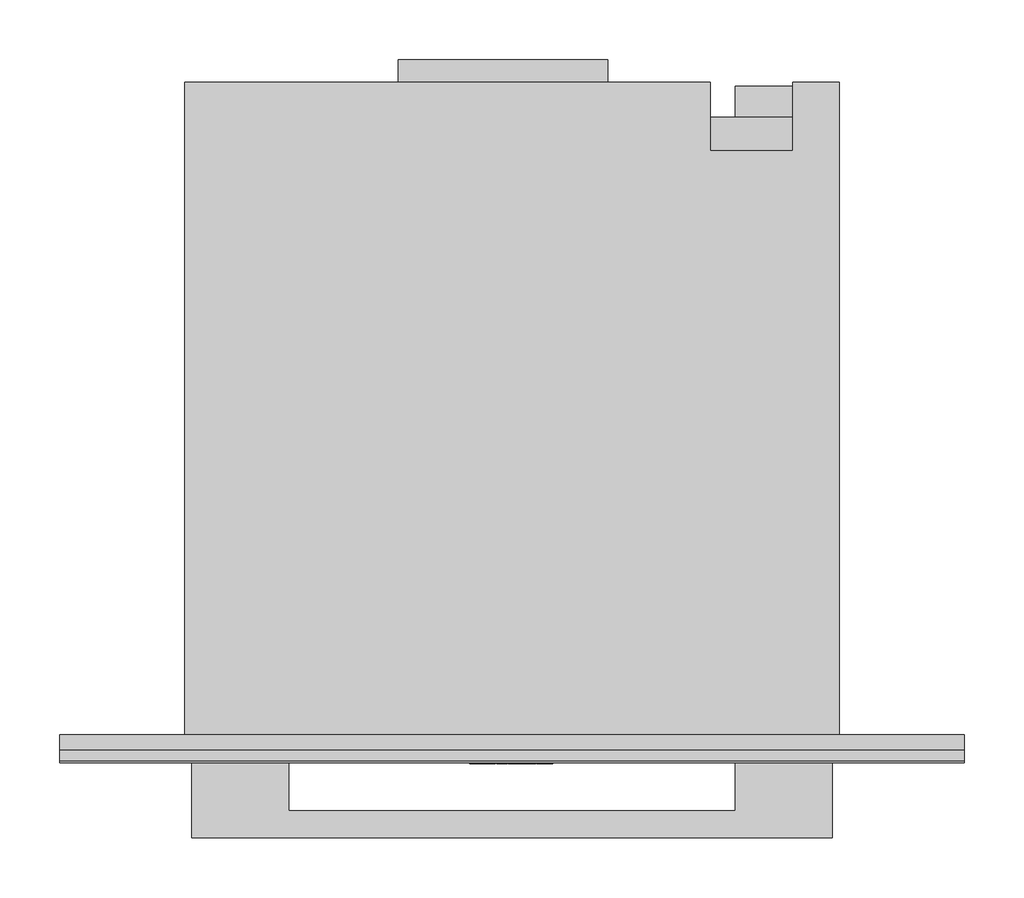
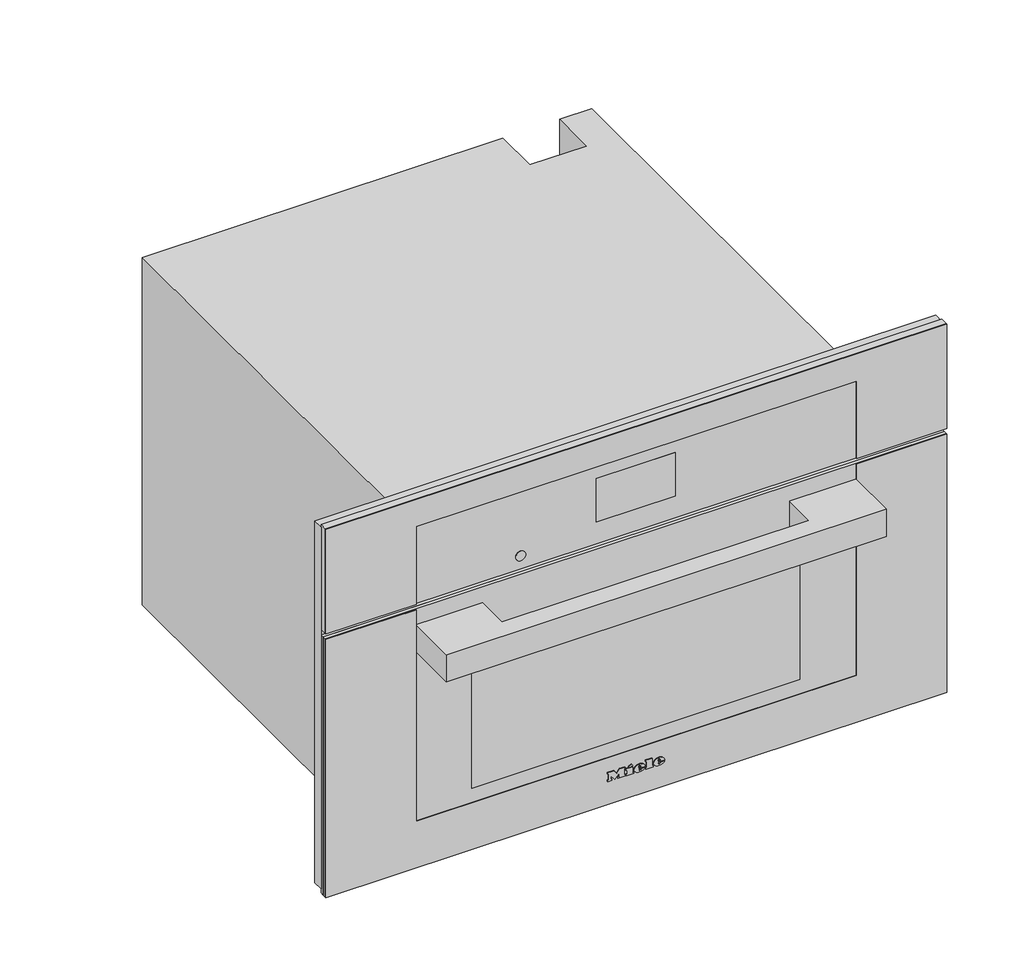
# Not in any storey: 1 proxy.
"""IFC4 building model written with IfcOpenShell, lengths in millimetres."""

import ifcopenshell
import ifcopenshell.guid

model = None  # the IFC model being written
_history = None  # IfcOwnerHistory: only IFC2X3 demands one
_inside = {}  # id of a spatial element -> (the spatial element, [elements in it])
_under = {}  # id of a project, library or spatial element -> (it, [spatial elements below it])
_declared = {}  # id of a project -> (the project, [libraries it declares])
_typed = {}  # id of a type object -> (the type object, [elements of that type])
_made_of = {}  # id of a material, layer set ... -> (it, [elements and type objects made of it])


def new_model(schema):
    """Start an empty IFC model of exactly this schema.

    Asked for "IFC4X3", IfcOpenShell would pick the latest addendum, in which some entities
    have other attributes; the version numbers below select the first issue.
    IFC2X3 requires an IfcOwnerHistory on every rooted entity: one is made here for all.
    """
    global model, _history
    if schema == "IFC4X3":
        model = ifcopenshell.file(schema_version=(4, 3, 0, 0))
    else:
        model = ifcopenshell.file(schema=schema)
    _inside.clear()
    _under.clear()
    _declared.clear()
    _typed.clear()
    _made_of.clear()
    _history = None
    if model.schema == "IFC2X3":
        org = make("IfcOrganization", Name="unknown")
        user = make(
            "IfcPersonAndOrganization",
            ThePerson=make("IfcPerson", FamilyName="unknown"),
            TheOrganization=org,
        )
        app = make(
            "IfcApplication",
            ApplicationDeveloper=org,
            Version="unknown",
            ApplicationFullName="unknown",
            ApplicationIdentifier="unknown",
        )
        _history = make(
            "IfcOwnerHistory",
            OwningUser=user,
            OwningApplication=app,
            ChangeAction="ADDED",
            CreationDate=0,
        )
    return model


def make(cls, **values):
    """One entity of the class cls with the attributes given. An attribute that is None is left unset."""
    return model.create_entity(
        cls, **{name: value for name, value in values.items() if value is not None}
    )


def rooted(cls, **values):
    """An entity with a GlobalId (a new one), such as an element, a storey or a relation."""
    return make(cls, GlobalId=ifcopenshell.guid.new(), OwnerHistory=_history, **values)


def si_unit(unit_type, name, prefix=None):
    """IfcSIUnit, for example si_unit("LENGTHUNIT", "METRE", prefix="MILLI")."""
    return make("IfcSIUnit", UnitType=unit_type, Prefix=prefix, Name=name)


def assignment(units):
    """IfcUnitAssignment: the units of a project."""
    return None if units is None else make("IfcUnitAssignment", Units=units)


def point(xyz):
    """IfcCartesianPoint."""
    return None if xyz is None else make("IfcCartesianPoint", Coordinates=xyz)


def direction(xyz):
    """IfcDirection."""
    return None if xyz is None else make("IfcDirection", DirectionRatios=xyz)


def frame(location, z_axis=None, x_axis=None):
    """IfcAxis2Placement3D, a coordinate frame: its origin and axes. An axis left out is left unset."""
    return make(
        "IfcAxis2Placement3D",
        Location=point(location),
        Axis=direction(z_axis),
        RefDirection=direction(x_axis),
    )


def frame_2d(location, x_axis=None):
    """IfcAxis2Placement2D, a coordinate frame in the plane: its origin and x axis."""
    return make(
        "IfcAxis2Placement2D", Location=point(location), RefDirection=direction(x_axis)
    )


def origin():
    """The frame at (0, 0, 0) with its axes left unset."""
    return frame((0.0, 0.0, 0.0))


def place(relative_to, where):
    """IfcLocalPlacement: puts the frame where relative to a parent placement (None: the world)."""
    return make(
        "IfcLocalPlacement", PlacementRelTo=relative_to, RelativePlacement=where
    )


def context(
    kind, dimensions, precision=None, world=None, true_north=None, identifier=None
):
    """IfcGeometricRepresentationContext, for example the 3D "Model" context."""
    return make(
        "IfcGeometricRepresentationContext",
        ContextIdentifier=identifier,
        ContextType=kind,
        CoordinateSpaceDimension=dimensions,
        Precision=precision,
        WorldCoordinateSystem=world,
        TrueNorth=true_north,
    )


def project(units=None, contexts=None):
    """IfcProject with its units and contexts."""
    return rooted(
        "IfcProject",
        Name="project",
        RepresentationContexts=contexts,
        UnitsInContext=assignment(units),
    )


def spatial(cls, under=None, at=None, **own):
    """A site, building, storey or space (cls), placed at a placement, below another one or the project."""
    s = rooted(cls, ObjectPlacement=at, **own)
    if under is not None:
        _under.setdefault(under.id(), (under, []))[1].append(s)
    return s


def polyline(points):
    """IfcPolyline through the points."""
    return make("IfcPolyline", Points=[point(p) for p in points])


def circle_curve(where, radius):
    """IfcCircle in the frame where."""
    return make("IfcCircle", Position=where, Radius=radius)


def ellipse_curve(where, semi_axis1, semi_axis2):
    """IfcEllipse in the frame where."""
    return make(
        "IfcEllipse", Position=where, SemiAxis1=semi_axis1, SemiAxis2=semi_axis2
    )


def trimmed(basis, trim1, trim2, sense, master):
    """IfcTrimmedCurve: the piece of a basis curve between two trims."""
    return make(
        "IfcTrimmedCurve",
        BasisCurve=basis,
        Trim1=trim1,
        Trim2=trim2,
        SenseAgreement=sense,
        MasterRepresentation=master,
    )


def segment(curve, same_sense, transition):
    """IfcCompositeCurveSegment."""
    return make(
        "IfcCompositeCurveSegment",
        Transition=transition,
        SameSense=same_sense,
        ParentCurve=curve,
    )


def composite_curve(segments, self_intersect=None):
    """IfcCompositeCurve: segments joined end to end."""
    return make("IfcCompositeCurve", Segments=segments, SelfIntersect=self_intersect)


def outline(outer, holes=None, kind="AREA"):
    """IfcArbitraryClosedProfileDef: a profile drawn as a closed curve; with holes, ...WithVoids."""
    if holes is None:
        return make("IfcArbitraryClosedProfileDef", ProfileType=kind, OuterCurve=outer)
    return make(
        "IfcArbitraryProfileDefWithVoids",
        ProfileType=kind,
        OuterCurve=outer,
        InnerCurves=holes,
    )


def extrude(swept, where, along, depth):
    """IfcExtrudedAreaSolid: the profile swept, set in the frame where, extruded along a direction by depth."""
    return make(
        "IfcExtrudedAreaSolid",
        SweptArea=swept,
        Position=where,
        ExtrudedDirection=direction(along),
        Depth=depth,
    )


def faces_of(points, faces, orient=None, outer=None):
    """IfcFace entities. A face is a list of loops; a loop is a list of indices into points, from 0.

    orient and outer hold one flag for each loop. By default every Orientation is true, the
    first loop of a face is its IfcFaceOuterBound and the others are IfcFaceBound.
    """
    made = []
    for i, loops in enumerate(faces):
        bounds = []
        for j, loop in enumerate(loops):
            is_outer = j == 0 if outer is None else outer[i][j]
            bounds.append(
                make(
                    "IfcFaceOuterBound" if is_outer else "IfcFaceBound",
                    Bound=make("IfcPolyLoop", Polygon=[points[k] for k in loop]),
                    Orientation=True if orient is None else orient[i][j],
                )
            )
        made.append(make("IfcFace", Bounds=bounds))
    return made


def faceted_brep(points, faces, orient=None, outer=None, voids=None):
    """IfcFacetedBrep: a solid bounded by flat faces; with voids (closed shells), ...WithVoids."""
    shared = [point(p) for p in points]
    hull = make("IfcClosedShell", CfsFaces=faces_of(shared, faces, orient, outer))
    if voids is None:
        return make("IfcFacetedBrep", Outer=hull)
    return make(
        "IfcFacetedBrepWithVoids",
        Outer=hull,
        Voids=[
            make(cls, CfsFaces=faces_of(shared, fs, o, b)) for cls, fs, o, b in voids
        ],
    )


def shape(context_of_items, identifier, shape_type, items):
    """IfcShapeRepresentation: the items that make up one representation, for example the "Body"."""
    return make(
        "IfcShapeRepresentation",
        ContextOfItems=context_of_items,
        RepresentationIdentifier=identifier,
        RepresentationType=shape_type,
        Items=items,
    )


def source(mapping_origin, context_of_items, identifier, shape_type, items):
    """IfcRepresentationMap: a shape defined once, which mapped items show again and again."""
    return make(
        "IfcRepresentationMap",
        MappingOrigin=mapping_origin,
        MappedRepresentation=shape(context_of_items, identifier, shape_type, items),
    )


def transform(
    local_origin,
    x_axis=None,
    y_axis=None,
    z_axis=None,
    scale=None,
    scale2=None,
    scale3=None,
    uniform=True,
):
    """IfcCartesianTransformationOperator3D, or its non-uniform kind. x_axis, y_axis, z_axis: its Axis1, 2, 3."""
    if uniform:
        return make(
            "IfcCartesianTransformationOperator3D",
            Axis1=direction(x_axis),
            Axis2=direction(y_axis),
            LocalOrigin=point(local_origin),
            Scale=scale,
            Axis3=direction(z_axis),
        )
    return make(
        "IfcCartesianTransformationOperator3DnonUniform",
        Axis1=direction(x_axis),
        Axis2=direction(y_axis),
        LocalOrigin=point(local_origin),
        Scale=scale,
        Axis3=direction(z_axis),
        Scale2=scale2,
        Scale3=scale3,
    )


def mapped(mapping_source, mapping_target):
    """IfcMappedItem: shows the shape of a source again, moved by a transform."""
    return make(
        "IfcMappedItem", MappingSource=mapping_source, MappingTarget=mapping_target
    )


def made_of(thing, what):
    """Note that an element or type object is made of a material, layer set ...; save() writes the relation."""
    if what is not None:
        _made_of.setdefault(what.id(), (what, []))[1].append(thing)
    return thing


def element(
    cls,
    number,
    at=None,
    inside=None,
    cuts=None,
    type_object=None,
    material=None,
    context=None,
    identifier="Body",
    shape_type=None,
    held_by="IfcProductDefinitionShape",
    body=None,
    shapes=None,
    **own,
):
    """One element of the class cls, such as IfcWall. Its Tag is "e" and its number.

    at: its placement. inside: the storey or other place that contains it. cuts: it is an
    opening in that element (IfcRelVoidsElement). A single representation is given by context,
    identifier, shape_type and body (its items); several are given by shapes. held_by: the class
    of the entity that holds the representations. save() writes the other relations.
    """
    e = rooted(cls, Tag="e%d" % number, ObjectPlacement=at, **own)
    if body is not None:
        shapes = [shape(context, identifier, shape_type, body)]
    if shapes is not None:
        e.Representation = make(held_by, Representations=shapes)
    if inside is not None:
        _inside.setdefault(inside.id(), (inside, []))[1].append(e)
    if cuts is not None:
        rooted(
            "IfcRelVoidsElement", RelatingBuildingElement=cuts, RelatedOpeningElement=e
        )
    if type_object is not None:
        _typed.setdefault(type_object.id(), (type_object, []))[1].append(e)
    return made_of(e, material)


def aggregate(whole, parts):
    """IfcRelAggregates: a whole, such as a stair, and the parts it consists of."""
    return rooted("IfcRelAggregates", RelatingObject=whole, RelatedObjects=parts)


def save(model, path):
    """Write the relations noted so far, then the file.

    IfcRelAggregates (storeys below a building ...), IfcRelContainedInSpatialStructure (elements
    in a storey), IfcRelDefinesByType, IfcRelAssociatesMaterial and IfcRelDeclares: one each for
    every whole, place, type object, material and project.
    """
    for whole, parts in _under.values():
        aggregate(whole, parts)
    for where, things in _inside.values():
        rooted(
            "IfcRelContainedInSpatialStructure",
            RelatedElements=things,
            RelatingStructure=where,
        )
    for kind, things in _typed.values():
        rooted("IfcRelDefinesByType", RelatedObjects=things, RelatingType=kind)
    for what, things in _made_of.values():
        rooted("IfcRelAssociatesMaterial", RelatedObjects=things, RelatingMaterial=what)
    for by, libraries in _declared.values():
        rooted("IfcRelDeclares", RelatingContext=by, RelatedDefinitions=libraries)
    model.write(path)


def plane_surface(at):
    """IfcPlane: the flat surface through the origin of the frame at, square to its z axis."""
    return make("IfcPlane", Position=at)


def cylinder_surface(at, radius):
    """IfcCylindricalSurface: all points at the distance radius from the z axis of the frame at."""
    return make("IfcCylindricalSurface", Position=at, Radius=radius)


def revolved_surface(curve, axis_point, axis_direction):
    """IfcSurfaceOfRevolution: the curve turned about the line through axis_point along axis_direction."""
    return make(
        "IfcSurfaceOfRevolution",
        SweptCurve=make("IfcArbitraryOpenProfileDef", ProfileType="CURVE", Curve=curve),
        AxisPosition=make("IfcAxis1Placement", Location=point(axis_point), Axis=direction(axis_direction)),
    )


def extruded_surface(curve, direction_of_extrusion, depth):
    """IfcSurfaceOfLinearExtrusion: the curve pushed along a direction by depth."""
    return make(
        "IfcSurfaceOfLinearExtrusion",
        SweptCurve=make("IfcArbitraryOpenProfileDef", ProfileType="CURVE", Curve=curve),
        ExtrudedDirection=direction(direction_of_extrusion),
        Depth=depth,
    )


def advanced_brep(points, edges, surfaces, faces):
    """IfcAdvancedBrep: a solid bounded by faces that lie on surfaces and meet in shared edges.

    An edge is (start, end): straight between two places in points (the first is 0);
    or (start, end, curve); or (start, end, curve, False) where it runs against its curve.
    A face is (place in surfaces, loops), or (place, loops, False) where it looks against
    its surface's normal. A loop lists edges by number (the first is 1), with a minus sign
    where the edge is run from its end to its start. The first loop is the outer one.
    """
    corners = [point(p) for p in points]
    vertices = [make("IfcVertexPoint", VertexGeometry=c) for c in corners]
    made = []
    for start, end, *more in edges:
        made.append(
            make(
                "IfcEdgeCurve",
                EdgeStart=vertices[start],
                EdgeEnd=vertices[end],
                EdgeGeometry=more[0] if more else make("IfcPolyline", Points=[corners[start], corners[end]]),
                SameSense=more[1] if len(more) > 1 else True,
            )
        )
    hull = []
    for where, loops, *sense in faces:
        bounds = []
        for j, loop in enumerate(loops):
            ring = [make("IfcOrientedEdge", EdgeElement=made[abs(k) - 1], Orientation=k > 0) for k in loop]
            bounds.append(
                make(
                    "IfcFaceOuterBound" if j == 0 else "IfcFaceBound",
                    Bound=make("IfcEdgeLoop", EdgeList=ring),
                    Orientation=True,
                )
            )
        hull.append(make("IfcAdvancedFace", Bounds=bounds, FaceSurface=surfaces[where], SameSense=sense[0] if sense else True))
    return make("IfcAdvancedBrep", Outer=make("IfcClosedShell", CfsFaces=hull))


def specialty_equipment_b7d9d9a2(model_context):
    return source(origin(), model_context, "Body", "SolidModel", [
        faceted_brep([(378.5, -13.0, 476.0), (-378.5, -13.0, 476.0), (-378.5, -13.0, 9.0), (-272.5, -13.0, 9.0), (-272.5, -13.0, 344.0), (272.5, -13.0, 344.0), (272.5, -13.0, 9.0), (378.5, -13.0, 9.0), (378.5, 0.0, 476.0), (378.5, 0.0, 9.0), (-378.5, 0.0, 9.0), (-378.5, 0.0, 476.0), (231.0, 0.0, 58.0), (231.0, 0.0, 286.0), (-231.0, 0.0, 286.0), (-231.0, 0.0, 58.0), (272.5, -5.0, 9.0), (-272.5, -5.0, 9.0), (-272.5, -5.0, 344.0), (272.5, -5.0, 344.0), (231.0, -5.0, 286.0), (231.0, -5.0, 58.0), (-231.0, -5.0, 58.0), (-231.0, -5.0, 286.0)], [[[0, 1, 2, 3, 4, 5, 6, 7]], [[8, 9, 10, 11], [12, 13, 14, 15]], [[1, 0, 8, 11]], [[2, 1, 11, 10]], [[10, 9, 7, 6, 16, 17, 3, 2]], [[0, 7, 9, 8]], [[18, 19, 5, 4]], [[18, 4, 3, 17]], [[5, 19, 16, 6]], [[19, 18, 17, 16], [20, 21, 22, 23]], [[20, 13, 12, 21]], [[21, 12, 15, 22]], [[22, 15, 14, 23]], [[13, 20, 23, 14]]]),
        extrude(outline(polyline([(-95.0, 565.0), (80.0, 565.0), (80.0, 546.0), (-95.0, 546.0), (-95.0, 565.0)])), frame((0.0, 0.0, 260.0), z_axis=(0.0, 0.0, 1.0), x_axis=(1.0, 0.0, 0.0)), (0.0, 0.0, 1.0), 1.0),
        extrude(outline(polyline([(224.8383288, 537.0), (231.1236409, 537.0), (231.1236409, 526.9492425), (229.8571792, 526.9492425), (229.8571792, 535.7409796), (224.8383288, 535.7409796), (224.8383288, 537.0)])), frame((0.0, 0.0, 132.0), z_axis=(0.0, 0.0, 1.0), x_axis=(1.0, 0.0, 0.0)), (0.0, 0.0, 1.0), 1.0),
        extrude(outline(polyline([(233.0, 537.0), (240.3797826, 537.0), (240.3797826, 526.9503529), (233.15422, 526.9503529), (233.15422, 528.220938), (239.1355215, 528.220938), (239.1355215, 531.1975645), (233.4863097, 531.1975645), (233.4863097, 532.449242), (239.1355215, 532.449242), (239.1355215, 535.7448633), (233.0, 535.7448633), (233.0, 537.0)])), frame((0.0, 0.0, 132.0), z_axis=(0.0, 0.0, 1.0), x_axis=(1.0, 0.0, 0.0)), (0.0, 0.0, 1.0), 1.0),
        extrude(outline(composite_curve([segment(trimmed(circle_curve(frame_2d((233.0, 532.0)), 7.5), [point((225.5, 532.0))], [point((240.5, 532.0))], False, "CARTESIAN"), True, "CONTINUOUS"), segment(trimmed(circle_curve(frame_2d((233.0, 532.0)), 7.5), [point((240.5, 532.0))], [point((225.5, 532.0))], False, "CARTESIAN"), True, "CONTINUOUS")], self_intersect=False)), frame((0.0, 0.0, 133.0), z_axis=(0.0, 0.0, 1.0), x_axis=(1.0, 0.0, 0.0)), (0.0, 0.0, 1.0), 30.0),
        extrude(outline(polyline([(266.0, 517.0), (187.0, 517.0), (187.0, 543.0), (266.0, 543.0), (266.0, 517.0)])), frame((0.0, 0.0, 163.0), z_axis=(0.0, 0.0, 1.0), x_axis=(1.0, 0.0, 0.0)), (0.0, 0.0, 1.0), 111.0),
        faceted_brep([(-274.0, 546.0, 0.0), (-274.0, 546.0, 448.0), (166.0, 546.0, 448.0), (166.0, 546.0, 0.0), (235.0, 546.0, 448.0), (274.0, 546.0, 448.0), (274.0, 546.0, 338.0), (235.0, 546.0, 338.0), (274.0, 0.0, 448.0), (-274.0, 0.0, 448.0), (-274.0, 0.0, 0.0), (274.0, 0.0, 0.0), (231.0, 0.0, 286.0), (231.0, 0.0, 58.0), (-231.0, 0.0, 58.0), (-231.0, 0.0, 286.0), (235.0, 489.0, 448.0), (166.0, 489.0, 448.0), (166.0, 517.0, 0.0), (274.0, 517.0, 0.0), (274.0, 517.0, 338.0), (231.0, 411.0, 286.0), (-231.0, 411.0, 286.0), (-231.0, 411.0, 58.0), (231.0, 411.0, 58.0), (235.0, 489.0, 337.0), (166.0, 489.0, 337.0), (166.0, 517.0, 337.0), (235.0, 517.0, 337.0), (235.0, 517.0, 338.0)], [[[0, 1, 2, 3]], [[4, 5, 6, 7]], [[8, 9, 10, 11], [12, 13, 14, 15]], [[9, 8, 5, 4, 16, 17, 2, 1]], [[1, 0, 10, 9]], [[11, 10, 0, 3, 18, 19]], [[8, 11, 19, 20, 6, 5]], [[21, 22, 23, 24]], [[21, 24, 13, 12]], [[24, 23, 14, 13]], [[23, 22, 15, 14]], [[22, 21, 12, 15]], [[16, 25, 26, 17]], [[17, 26, 27, 18, 3, 2]], [[26, 25, 28, 27]], [[25, 16, 4, 7, 29, 28]], [[29, 20, 19, 18, 27, 28]], [[20, 29, 7, 6]]]),
        advanced_brep(
        [(26.2998, -24.3, 36.7018), (26.2998, -24.3, 37.8532), (33.9264, -24.3, 37.8532), (20.6568, -24.3, 37.8532), (23.7918, -24.3, 34.0), (33.7326, -24.3, 36.7018), (30.2898, -24.3, 36.7018), (27.5766, -24.3, 35.425), (26.2998, -24.3, 39.3124), (26.2998, -24.3, 40.555), (28.2492, -24.3, 40.555), (28.2492, -24.3, 39.3124), (26.2998, -23.3, 36.7018), (27.5766, -23.3, 35.425), (30.2898, -23.3, 36.7018), (33.7326, -23.3, 36.7018), (23.7918, -23.3, 34.0), (20.6568, -23.3, 37.8532), (33.9264, -23.3, 37.8532), (26.2998, -23.3, 37.8532), (26.2998, -23.3, 39.3124), (28.2492, -23.3, 39.3124), (28.2492, -23.3, 40.555), (26.2998, -23.3, 40.555)],
        [
            (0, 1),
            (1, 2),
            (2, 3, ellipse_curve(frame((27.2916, -24.3, 37.8532), z_axis=(0.0, -1.0, 0.0), x_axis=(-1.0, 0.0, 0.0)), 6.6348, 5.4834)),
            (3, 4, circle_curve(frame((25.0686622, -24.3, 38.2408), z_axis=(0.0, -1.0, 0.0), x_axis=(0.0, 0.0, -1.0)), 4.4288556)),
            (4, 5, circle_curve(frame((27.1587808, -24.3, 41.2504), z_axis=(0.0, -1.0, 0.0), x_axis=(0.0, 0.0, -1.0)), 7.9940516)),
            (5, 6),
            (6, 7, circle_curve(frame((28.1338588, -24.3, 37.762), z_axis=(0.0, 1.0, 0.0), x_axis=(0.0, 0.0, -1.0)), 2.4025208)),
            (7, 0, circle_curve(frame((27.5766, -24.3, 36.7018), z_axis=(0.0, 1.0, 0.0), x_axis=(0.0, 0.0, -1.0)), 1.2768)),
            (8, 9),
            (9, 10, circle_curve(frame((27.2745, -24.3, 40.555), z_axis=(0.0, 1.0, 0.0), x_axis=(0.0, 0.0, -1.0)), 0.9747)),
            (10, 11),
            (11, 8),
            (12, 13, circle_curve(frame((27.5766, -23.3, 36.7018), z_axis=(0.0, -1.0, 0.0), x_axis=(0.0, 0.0, -1.0)), 1.2768)),
            (13, 14, circle_curve(frame((28.1338588, -23.3, 37.762), z_axis=(0.0, -1.0, 0.0), x_axis=(0.0, 0.0, -1.0)), 2.4025208)),
            (14, 15),
            (15, 16, circle_curve(frame((27.1587808, -23.3, 41.2504), z_axis=(0.0, 1.0, 0.0), x_axis=(0.0, 0.0, -1.0)), 7.9940516)),
            (16, 17, circle_curve(frame((25.0686622, -23.3, 38.2408), z_axis=(0.0, 1.0, 0.0), x_axis=(0.0, 0.0, -1.0)), 4.4288556)),
            (17, 18, ellipse_curve(frame((27.2916, -23.3, 37.8532), z_axis=(0.0, 1.0, 0.0), x_axis=(-1.0, 0.0, 0.0)), 6.6348, 5.4834)),
            (18, 19),
            (19, 12),
            (20, 21),
            (21, 22),
            (22, 23, circle_curve(frame((27.2745, -23.3, 40.555), z_axis=(0.0, -1.0, 0.0), x_axis=(0.0, 0.0, -1.0)), 0.9747)),
            (23, 20),
            (0, 12),
            (19, 1),
            (18, 2),
            (5, 15),
            (14, 6),
            (17, 3),
            (13, 7),
            (16, 4),
            (8, 20),
            (23, 9),
            (22, 10),
            (21, 11),
        ],
        [
            plane_surface(frame((26.2998, -24.3, 37.8532), z_axis=(0.0, -1.0, 0.0), x_axis=(0.0, 0.0, 1.0))),
            plane_surface(frame((26.2998, -23.3, 37.8532), z_axis=(0.0, 1.0, 0.0), x_axis=(0.0, 0.0, -1.0))),
            plane_surface(frame((26.2998, -24.3, 36.7018), z_axis=(1.0, 0.0, 0.0), x_axis=(0.0, 1.0, 0.0))),
            plane_surface(frame((26.2998, -24.3, 37.8532), z_axis=(0.0, 0.0, -1.0), x_axis=(0.0, 1.0, 0.0))),
            plane_surface(frame((33.7326, -24.3, 36.7018), z_axis=(0.0, 0.0, 1.0), x_axis=(0.0, 1.0, 0.0))),
            extruded_surface(trimmed(ellipse_curve(frame((27.2916, -22.3, 37.8532), z_axis=(0.0, -1.0, 0.0), x_axis=(-1.0, 0.0, 0.0)), 6.6348, 5.4834), [point((33.9264, -22.3, 37.8532))], [point((20.6568, -22.3, 37.8532))], True, "CARTESIAN"), (0.0, -1.0, 0.0), 1.0),
            revolved_surface(polyline([(28.1338588, -23.3, 35.3594792), (28.1338588, -24.3, 35.3594792)]), (28.1338588, -23.3, 37.762), (0.0, 1.0, 0.0)),
            revolved_surface(polyline([(27.5766, -23.3, 35.425), (27.5766, -24.3, 35.425)]), (27.5766, -23.3, 36.7018), (0.0, 1.0, 0.0)),
            cylinder_surface(frame((25.0686622, -23.3, 38.2408), z_axis=(0.0, -1.0, 0.0), x_axis=(0.0, 0.0, -1.0)), 4.4288556),
            cylinder_surface(frame((27.1587808, -23.3, 41.2504), z_axis=(0.0, -1.0, 0.0), x_axis=(0.0, 0.0, -1.0)), 7.9940516),
            plane_surface(frame((26.2998, -24.3, 39.3124), z_axis=(1.0, 0.0, 0.0), x_axis=(0.0, 1.0, 0.0))),
            revolved_surface(polyline([(27.2745, -23.3, 39.5803), (27.2745, -24.3, 39.5803)]), (27.2745, -23.3, 40.555), (0.0, 1.0, 0.0)),
            plane_surface(frame((28.2492, -24.3, 40.555), z_axis=(-1.0, 0.0, 0.0), x_axis=(0.0, 1.0, 0.0))),
            plane_surface(frame((28.2492, -24.3, 39.3124), z_axis=(0.0, 0.0, 1.0), x_axis=(0.0, 1.0, 0.0))),
        ],
        [
            (0, [[1, 2, 3, 4, 5, 6, 7, 8], [9, 10, 11, 12]]),
            (1, [[13, 14, 15, 16, 17, 18, 19, 20], [21, 22, 23, 24]]),
            (2, [[-1, 25, -20, 26]]),
            (3, [[-2, -26, -19, 27]]),
            (4, [[-6, 28, -15, 29]]),
            (5, [[-3, -27, -18, 30]]),
            (6, [[-7, -29, -14, 31]]),
            (7, [[-8, -31, -13, -25]]),
            (8, [[-4, -30, -17, 32]]),
            (9, [[-5, -32, -16, -28]]),
            (10, [[-9, 33, -24, 34]]),
            (11, [[-10, -34, -23, 35]]),
            (12, [[-11, -35, -22, 36]]),
            (13, [[-12, -36, -21, -33]]),
        ],
    ),
        advanced_brep(
        [(2.508, -24.3, 36.7018), (2.508, -24.3, 37.8532), (10.1346, -24.3, 37.8532), (-3.135, -24.3, 37.8532), (0.0, -24.3, 34.0), (9.9408, -24.3, 36.7018), (6.498, -24.3, 36.7018), (3.7848, -24.3, 35.425), (2.508, -24.3, 39.3124), (2.508, -24.3, 40.555), (4.4574, -24.3, 40.555), (4.4574, -24.3, 39.3124), (2.508, -23.3, 36.7018), (3.7848, -23.3, 35.425), (6.498, -23.3, 36.7018), (9.9408, -23.3, 36.7018), (0.0, -23.3, 34.0), (-3.135, -23.3, 37.8532), (10.1346, -23.3, 37.8532), (2.508, -23.3, 37.8532), (2.508, -23.3, 39.3124), (4.4574, -23.3, 39.3124), (4.4574, -23.3, 40.555), (2.508, -23.3, 40.555)],
        [
            (0, 1),
            (1, 2),
            (2, 3, ellipse_curve(frame((3.4998, -24.3, 37.8532), z_axis=(0.0, -1.0, 0.0), x_axis=(-1.0, 0.0, 0.0)), 6.6348, 5.4834)),
            (3, 4, circle_curve(frame((1.2768622, -24.3, 38.2408), z_axis=(0.0, -1.0, 0.0), x_axis=(0.0, 0.0, -1.0)), 4.4288556)),
            (4, 5, circle_curve(frame((3.3669808, -24.3, 41.2504), z_axis=(0.0, -1.0, 0.0), x_axis=(0.0, 0.0, -1.0)), 7.9940516)),
            (5, 6),
            (6, 7, circle_curve(frame((4.3420588, -24.3, 37.762), z_axis=(0.0, 1.0, 0.0), x_axis=(0.0, 0.0, -1.0)), 2.4025208)),
            (7, 0, circle_curve(frame((3.7848, -24.3, 36.7018), z_axis=(0.0, 1.0, 0.0), x_axis=(0.0, 0.0, -1.0)), 1.2768)),
            (8, 9),
            (9, 10, circle_curve(frame((3.4827, -24.3, 40.555), z_axis=(0.0, 1.0, 0.0), x_axis=(0.0, 0.0, -1.0)), 0.9747)),
            (10, 11),
            (11, 8),
            (12, 13, circle_curve(frame((3.7848, -23.3, 36.7018), z_axis=(0.0, -1.0, 0.0), x_axis=(0.0, 0.0, -1.0)), 1.2768)),
            (13, 14, circle_curve(frame((4.3420588, -23.3, 37.762), z_axis=(0.0, -1.0, 0.0), x_axis=(0.0, 0.0, -1.0)), 2.4025208)),
            (14, 15),
            (15, 16, circle_curve(frame((3.3669808, -23.3, 41.2504), z_axis=(0.0, 1.0, 0.0), x_axis=(0.0, 0.0, -1.0)), 7.9940516)),
            (16, 17, circle_curve(frame((1.2768622, -23.3, 38.2408), z_axis=(0.0, 1.0, 0.0), x_axis=(0.0, 0.0, -1.0)), 4.4288556)),
            (17, 18, ellipse_curve(frame((3.4998, -23.3, 37.8532), z_axis=(0.0, 1.0, 0.0), x_axis=(-1.0, 0.0, 0.0)), 6.6348, 5.4834)),
            (18, 19),
            (19, 12),
            (20, 21),
            (21, 22),
            (22, 23, circle_curve(frame((3.4827, -23.3, 40.555), z_axis=(0.0, -1.0, 0.0), x_axis=(0.0, 0.0, -1.0)), 0.9747)),
            (23, 20),
            (0, 12),
            (19, 1),
            (18, 2),
            (5, 15),
            (14, 6),
            (17, 3),
            (13, 7),
            (16, 4),
            (8, 20),
            (23, 9),
            (22, 10),
            (21, 11),
        ],
        [
            plane_surface(frame((2.508, -24.3, 37.8532), z_axis=(0.0, -1.0, 0.0), x_axis=(0.0, 0.0, 1.0))),
            plane_surface(frame((2.508, -23.3, 37.8532), z_axis=(0.0, 1.0, 0.0), x_axis=(0.0, 0.0, -1.0))),
            plane_surface(frame((2.508, -24.3, 36.7018), z_axis=(1.0, 0.0, 0.0), x_axis=(0.0, 1.0, 0.0))),
            plane_surface(frame((2.508, -24.3, 37.8532), z_axis=(0.0, 0.0, -1.0), x_axis=(0.0, 1.0, 0.0))),
            plane_surface(frame((9.9408, -24.3, 36.7018), z_axis=(0.0, 0.0, 1.0), x_axis=(0.0, 1.0, 0.0))),
            extruded_surface(trimmed(ellipse_curve(frame((3.4998, -22.3, 37.8532), z_axis=(0.0, -1.0, 0.0), x_axis=(-1.0, 0.0, 0.0)), 6.6348, 5.4834), [point((10.1346, -22.3, 37.8532))], [point((-3.135, -22.3, 37.8532))], True, "CARTESIAN"), (0.0, -1.0, 0.0), 1.0),
            revolved_surface(polyline([(4.3420588, -23.3, 35.3594792), (4.3420588, -24.3, 35.3594792)]), (4.3420588, -23.3, 37.762), (0.0, 1.0, 0.0)),
            revolved_surface(polyline([(3.7848, -23.3, 35.425), (3.7848, -24.3, 35.425)]), (3.7848, -23.3, 36.7018), (0.0, 1.0, 0.0)),
            cylinder_surface(frame((1.2768622, -23.3, 38.2408), z_axis=(0.0, -1.0, 0.0), x_axis=(0.0, 0.0, -1.0)), 4.4288556),
            cylinder_surface(frame((3.3669808, -23.3, 41.2504), z_axis=(0.0, -1.0, 0.0), x_axis=(0.0, 0.0, -1.0)), 7.9940516),
            plane_surface(frame((2.508, -24.3, 39.3124), z_axis=(1.0, 0.0, 0.0), x_axis=(0.0, 1.0, 0.0))),
            revolved_surface(polyline([(3.4827, -23.3, 39.5803), (3.4827, -24.3, 39.5803)]), (3.4827, -23.3, 40.555), (0.0, 1.0, 0.0)),
            plane_surface(frame((4.4574, -24.3, 40.555), z_axis=(-1.0, 0.0, 0.0), x_axis=(0.0, 1.0, 0.0))),
            plane_surface(frame((4.4574, -24.3, 39.3124), z_axis=(0.0, 0.0, 1.0), x_axis=(0.0, 1.0, 0.0))),
        ],
        [
            (0, [[1, 2, 3, 4, 5, 6, 7, 8], [9, 10, 11, 12]]),
            (1, [[13, 14, 15, 16, 17, 18, 19, 20], [21, 22, 23, 24]]),
            (2, [[-1, 25, -20, 26]]),
            (3, [[-2, -26, -19, 27]]),
            (4, [[-6, 28, -15, 29]]),
            (5, [[-3, -27, -18, 30]]),
            (6, [[-7, -29, -14, 31]]),
            (7, [[-8, -31, -13, -25]]),
            (8, [[-4, -30, -17, 32]]),
            (9, [[-5, -32, -16, -28]]),
            (10, [[-9, 33, -24, 34]]),
            (11, [[-10, -34, -23, 35]]),
            (12, [[-11, -35, -22, 36]]),
            (13, [[-12, -36, -21, -33]]),
        ],
    ),
        extrude(outline(polyline([(44.7274, -9.9522), (42.8806, -9.0858), (44.6818, -5.2212), (46.5286, -6.0762), (44.7274, -9.9522)])), frame((0.0, -24.3, 0.0), z_axis=(0.0, 1.0, 0.0), x_axis=(0.0, 0.0, 1.0)), (0.0, 0.0, 1.0), 1.0),
        extrude(outline(polyline([(42.6298, -12.768), (40.5892, -12.768), (40.5892, -11.4114), (35.9152, -11.4114), (35.9152, -12.768), (34.0, -12.768), (34.0, -3.7734), (35.9152, -3.7734), (35.9152, -5.0958), (42.6298, -5.0958), (42.6298, -12.768)])), frame((0.0, -24.3, 0.0), z_axis=(0.0, 1.0, 0.0), x_axis=(0.0, 0.0, 1.0)), (0.0, 0.0, 1.0), 1.0),
        extrude(outline(polyline([(43.5418, 10.773), (43.5418, 12.141), (35.9152, 12.141), (35.9152, 10.773), (34.0, 10.773), (34.0, 20.0184), (35.9152, 20.0184), (35.9152, 18.6162), (45.4, 18.6162), (45.4, 10.773), (43.5418, 10.773)])), frame((0.0, -24.3, 0.0), z_axis=(0.0, 1.0, 0.0), x_axis=(0.0, 0.0, 1.0)), (0.0, 0.0, 1.0), 1.0),
        extrude(outline(polyline([(43.5418, -35.4882), (43.5418, -34.1088), (35.9152, -34.1088), (35.9152, -35.4882), (34.0, -35.4882), (34.0, -30.4722), (35.9152, -30.4722), (35.9152, -31.8402), (40.7429247, -31.8402), (34.0, -26.7444), (40.9402223, -21.6258), (35.9152, -21.6258), (35.9152, -23.028), (34.0, -23.028), (34.0, -13.9308), (35.9152, -13.9308), (35.9152, -15.3786), (43.5418, -15.3786), (43.5418, -13.9308), (45.4, -13.9308), (45.4, -20.8734), (41.125, -24.2022), (45.4, -27.5424), (45.4, -35.4882), (43.5418, -35.4882)])), frame((0.0, -24.3, 0.0), z_axis=(0.0, 1.0, 0.0), x_axis=(0.0, 0.0, 1.0)), (0.0, 0.0, 1.0), 1.0),
        extrude(outline(composite_curve([segment(trimmed(circle_curve(frame_2d((361.0, -140.5745637)), 6.0), [point((361.0, -146.5745637))], [point((361.0, -134.5745637))], False, "CARTESIAN"), True, "CONTINUOUS"), segment(trimmed(circle_curve(frame_2d((361.0, -140.5745637)), 6.0), [point((361.0, -134.5745637))], [point((361.0, -146.5745637))], False, "CARTESIAN"), True, "CONTINUOUS")], self_intersect=False)), frame((0.0, -22.5, 0.0), z_axis=(0.0, 1.0, 0.0), x_axis=(0.0, 0.0, 1.0)), (0.0, 0.0, 1.0), 1.0),
        extrude(outline(polyline([(344.0, -268.5), (444.0, -268.5), (444.0, 268.5), (344.0, 268.5), (344.0, 378.5), (479.0, 378.5), (479.0, -378.5), (344.0, -378.5), (344.0, -268.5)])), frame((0.0, -23.3, 0.0), z_axis=(0.0, 1.0, 0.0), x_axis=(0.0, 0.0, 1.0)), (0.0, 0.0, 1.0), 1.3),
        extrude(outline(polyline([(-48.0, -21.0), (48.0, -21.0), (48.0, -22.0), (-48.0, -22.0), (-48.0, -21.0)])), frame((0.0, 0.0, 372.0), z_axis=(0.0, 0.0, 1.0), x_axis=(1.0, 0.0, 0.0)), (0.0, 0.0, 1.0), 56.0),
        faceted_brep([(378.5, -22.0, 479.0), (-378.5, -22.0, 479.0), (-378.5, -22.0, 344.0), (378.5, -22.0, 344.0), (48.0, -22.0, 428.0), (48.0, -22.0, 372.0), (-48.0, -22.0, 372.0), (-48.0, -22.0, 428.0), (378.5, -13.0, 479.0), (378.5, -13.0, 344.0), (-378.5, -13.0, 344.0), (-378.5, -13.0, 479.0), (48.0, -21.0, 428.0), (-48.0, -21.0, 428.0), (-48.0, -21.0, 372.0), (48.0, -21.0, 372.0)], [[[0, 1, 2, 3], [4, 5, 6, 7]], [[8, 9, 10, 11]], [[1, 0, 8, 11]], [[2, 1, 11, 10]], [[3, 2, 10, 9]], [[0, 3, 9, 8]], [[12, 13, 14, 15]], [[12, 15, 5, 4]], [[15, 14, 6, 5]], [[14, 13, 7, 6]], [[13, 12, 4, 7]]]),
        extrude(outline(polyline([(200.0, -22.0), (-200.0, -22.0), (-200.0, -18.0), (200.0, -18.0), (200.0, -22.0)])), frame((0.0, 0.0, 82.0), z_axis=(0.0, 0.0, 1.0), x_axis=(1.0, 0.0, 0.0)), (0.0, 0.0, 1.0), 170.0),
        extrude(outline(polyline([(337.0, 378.5), (337.0, -378.5), (4.0, -378.5), (4.0, 378.5), (337.0, 378.5)]), holes=[polyline([(252.0, -200.0), (252.0, 200.0), (82.0, 200.0), (82.0, -200.0), (252.0, -200.0)])]), frame((0.0, -22.0, 0.0), z_axis=(0.0, 1.0, 0.0), x_axis=(0.0, 0.0, 1.0)), (0.0, 0.0, 1.0), 4.0),
        extrude(outline(polyline([(-187.0, -22.0), (-187.0, -63.3), (187.0, -63.3), (187.0, -22.0), (268.0, -22.0), (268.0, -86.3), (-268.0, -86.3), (-268.0, -22.0), (-187.0, -22.0)])), frame((0.0, 0.0, 282.0), z_axis=(0.0, 0.0, 1.0), x_axis=(1.0, 0.0, 0.0)), (0.0, 0.0, 1.0), 35.0),
        extrude(outline(polyline([(337.0, -378.5), (4.0, -378.5), (4.0, 378.5), (337.0, 378.5), (337.0, 268.5), (64.0, 268.5), (64.0, -268.5), (337.0, -268.5), (337.0, -378.5)])), frame((0.0, -23.3, 0.0), z_axis=(0.0, 1.0, 0.0), x_axis=(0.0, 0.0, 1.0)), (0.0, 0.0, 1.0), 1.3),
        extrude(outline(polyline([(378.5, -18.0), (-378.5, -18.0), (-378.5, -13.0), (378.5, -13.0), (378.5, -18.0)])), frame((0.0, 0.0, 4.0), z_axis=(0.0, 0.0, 1.0), x_axis=(1.0, 0.0, 0.0)), (0.0, 0.0, 1.0), 333.0),
    ])


model = new_model("IFC4")

# Units and contexts
model_context = context("Model", 3, world=origin())
ifc_project = project(units=[si_unit("LENGTHUNIT", "METRE", prefix="MILLI")], contexts=[model_context])

# Site, building
site = spatial("IfcSite", under=ifc_project)
building = spatial("IfcBuilding", under=site)

# Proxy
placement = place(None, origin())
specialty_equipment_shape = specialty_equipment_b7d9d9a2(model_context)
element("IfcBuildingElementProxy", 1, Name="11875790_USA_DGC7570_EDST-CLST : 23757042_USA_11875790_DGC7570_EDST-CLST", ObjectType="11875790_USA_DGC7570_EDST-CLST : 23757042_USA_11875790_DGC7570_EDST-CLST", at=placement, inside=building, context=model_context, shape_type="MappedRepresentation", body=[
    mapped(specialty_equipment_shape, transform((0.0, 0.0, 0.0), x_axis=(1.0, 0.0, 0.0), y_axis=(0.0, 1.0, 0.0), z_axis=(0.0, 0.0, 1.0))),
])

save(model, "model.ifc")
